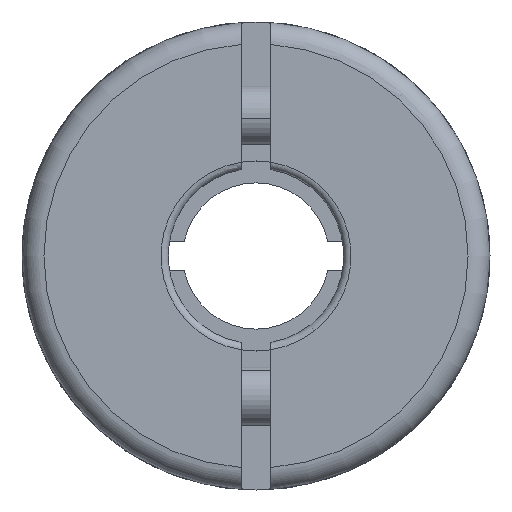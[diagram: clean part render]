
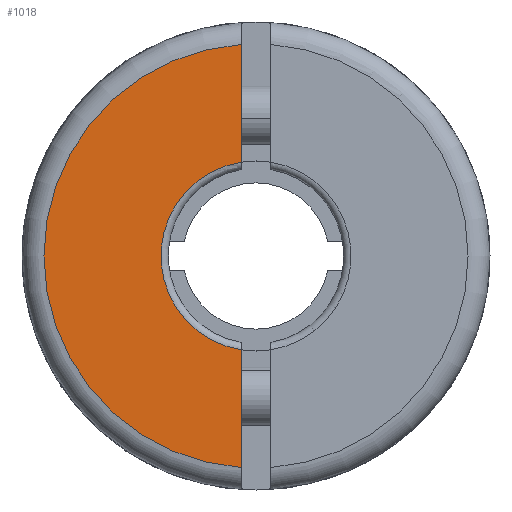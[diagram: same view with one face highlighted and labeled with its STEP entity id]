
A CAD part, left-side view. The second image highlights one B-rep face of the part: STEP entity #1018.
In plain terms, the highlighted planar face has unit normal (-1, 0, 0).
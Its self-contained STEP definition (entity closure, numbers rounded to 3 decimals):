
#413 = EDGE_CURVE ( 'NONE', #2156, #6637, #6844, .T. ) ;
#842 = CIRCLE ( 'NONE', #6869, 3.25 ) ;
#1018 = ADVANCED_FACE ( 'NONE', ( #4614 ), #5965, .F. ) ;
#1053 = DIRECTION ( 'NONE',  ( 0., 0., -1. ) ) ;
#1075 = CARTESIAN_POINT ( 'NONE',  ( 0., 0.5, -8. ) ) ;
#1142 = DIRECTION ( 'NONE',  ( 1., 0., 0. ) ) ;
#1298 = CARTESIAN_POINT ( 'NONE',  ( 0., 0.5, 7.233 ) ) ;
#1560 = VERTEX_POINT ( 'NONE', #2017 ) ;
#1702 = DIRECTION ( 'NONE',  ( -1., 0., 0. ) ) ;
#1716 = AXIS2_PLACEMENT_3D ( 'NONE', #3191, #1142, #4885 ) ;
#1995 = CARTESIAN_POINT ( 'NONE',  ( 0., 0.5, -3.211 ) ) ;
#2017 = CARTESIAN_POINT ( 'NONE',  ( 0., 0.5, 3.211 ) ) ;
#2156 = VERTEX_POINT ( 'NONE', #1995 ) ;
#2255 = CARTESIAN_POINT ( 'NONE',  ( 0., 0., 0. ) ) ;
#2364 = ORIENTED_EDGE ( 'NONE', *, *, #4406, .F. ) ;
#2739 = EDGE_CURVE ( 'NONE', #2156, #1560, #842, .T. ) ;
#2783 = DIRECTION ( 'NONE',  ( 0., 0., -1. ) ) ;
#3191 = CARTESIAN_POINT ( 'NONE',  ( 0., 0., 0. ) ) ;
#3364 = VECTOR ( 'NONE', #5162, 1000. ) ;
#3417 = LINE ( 'NONE', #4594, #3364 ) ;
#3630 = AXIS2_PLACEMENT_3D ( 'NONE', #4938, #1702, #5507 ) ;
#3823 = ORIENTED_EDGE ( 'NONE', *, *, #2739, .T. ) ;
#4406 = EDGE_CURVE ( 'NONE', #6305, #1560, #3417, .T. ) ;
#4594 = CARTESIAN_POINT ( 'NONE',  ( 0., 0.5, -8. ) ) ;
#4614 = FACE_OUTER_BOUND ( 'NONE', #5176, .T. ) ;
#4854 = CIRCLE ( 'NONE', #3630, 7.25 ) ;
#4885 = DIRECTION ( 'NONE',  ( 0., 0., -1. ) ) ;
#4938 = CARTESIAN_POINT ( 'NONE',  ( 0., 0., 0. ) ) ;
#5162 = DIRECTION ( 'NONE',  ( 0., 0., -1. ) ) ;
#5176 = EDGE_LOOP ( 'NONE', ( #6677, #5918, #3823, #2364 ) ) ;
#5507 = DIRECTION ( 'NONE',  ( 0., 0., -1. ) ) ;
#5918 = ORIENTED_EDGE ( 'NONE', *, *, #413, .F. ) ;
#5965 = PLANE ( 'NONE',  #1716 ) ;
#6105 = DIRECTION ( 'NONE',  ( 1., 0., 0. ) ) ;
#6305 = VERTEX_POINT ( 'NONE', #1298 ) ;
#6560 = EDGE_CURVE ( 'NONE', #6305, #6637, #4854, .T. ) ;
#6637 = VERTEX_POINT ( 'NONE', #6666 ) ;
#6666 = CARTESIAN_POINT ( 'NONE',  ( 0., 0.5, -7.233 ) ) ;
#6677 = ORIENTED_EDGE ( 'NONE', *, *, #6560, .T. ) ;
#6844 = LINE ( 'NONE', #1075, #6913 ) ;
#6869 = AXIS2_PLACEMENT_3D ( 'NONE', #2255, #6105, #2783 ) ;
#6913 = VECTOR ( 'NONE', #1053, 1000. ) ;
